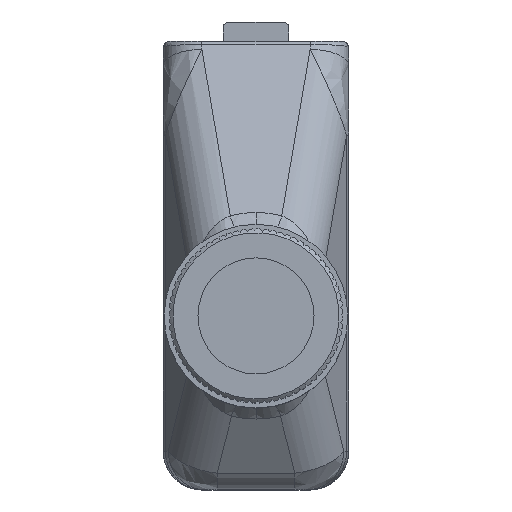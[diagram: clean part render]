
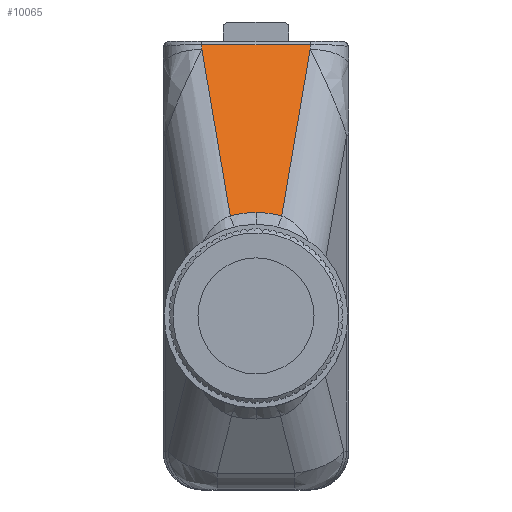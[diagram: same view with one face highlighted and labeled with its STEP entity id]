
A CAD part, top view. The second image highlights one B-rep face of the part: STEP entity #10065.
In plain terms, the highlighted planar face has unit normal (0, 0.433, 0.901).
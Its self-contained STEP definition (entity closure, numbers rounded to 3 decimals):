
#315 = LINE ( 'NONE', #34624, #8316 ) ;
#774 = ORIENTED_EDGE ( 'NONE', *, *, #35070, .T. ) ;
#1414 = CARTESIAN_POINT ( 'NONE',  ( 1.335, 4.307, 21.791 ) ) ;
#1610 = CARTESIAN_POINT ( 'NONE',  ( -4.8, 3.35, 22.25 ) ) ;
#1775 = DIRECTION ( 'NONE',  ( 0.151, 0.891, -0.428 ) ) ;
#2580 = CARTESIAN_POINT ( 'NONE',  ( -1.335, 4.307, 21.791 ) ) ;
#2708 = CARTESIAN_POINT ( 'NONE',  ( 0., 4.485, 21.705 ) ) ;
#2712 = EDGE_CURVE ( 'NONE', #38865, #21482, #315, .T. ) ;
#5089 = EDGE_CURVE ( 'NONE', #21482, #38360, #39043, .T. ) ;
#5125 = ORIENTED_EDGE ( 'NONE', *, *, #7620, .T. ) ;
#5273 = CARTESIAN_POINT ( 'NONE',  ( 1.335, 4.307, 21.791 ) ) ;
#6860 = VERTEX_POINT ( 'NONE', #12864 ) ;
#6944 = VECTOR ( 'NONE', #1775, 1000. ) ;
#7620 = EDGE_CURVE ( 'NONE', #36536, #17988, #21917, .T. ) ;
#8316 = VECTOR ( 'NONE', #11909, 1000. ) ;
#10065 = ADVANCED_FACE ( 'NONE', ( #37333 ), #30899, .T. ) ;
#10970 = ORIENTED_EDGE ( 'NONE', *, *, #17609, .T. ) ;
#11237 = DIRECTION ( 'NONE',  ( 0., -0.902, 0.433 ) ) ;
#11909 = DIRECTION ( 'NONE',  ( 0., -0.902, 0.433 ) ) ;
#12864 = CARTESIAN_POINT ( 'NONE',  ( 0., 4.485, 21.705 ) ) ;
#13062 = DIRECTION ( 'NONE',  ( 0.151, -0.891, 0.428 ) ) ;
#13317 = EDGE_LOOP ( 'NONE', ( #16882, #10970, #26770, #17451, #18467, #774, #5125 ) ) ;
#14346 = CARTESIAN_POINT ( 'NONE',  ( -2.8, 13.18, 17.532 ) ) ;
#14839 = EDGE_CURVE ( 'NONE', #38360, #6860, #22938, .T. ) ;
#16882 = ORIENTED_EDGE ( 'NONE', *, *, #38892, .T. ) ;
#17451 = ORIENTED_EDGE ( 'NONE', *, *, #5089, .T. ) ;
#17609 = EDGE_CURVE ( 'NONE', #27018, #38865, #21443, .T. ) ;
#17816 = VECTOR ( 'NONE', #28803, 1000. ) ;
#17914 = DIRECTION ( 'NONE',  ( 0., 0.433, 0.902 ) ) ;
#17988 = VERTEX_POINT ( 'NONE', #31378 ) ;
#17993 = CARTESIAN_POINT ( 'NONE',  ( -1.335, 4.307, 21.791 ) ) ;
#18230 = AXIS2_PLACEMENT_3D ( 'NONE', #1610, #17914, #11237 ) ;
#18450 = VECTOR ( 'NONE', #35712, 1000. ) ;
#18467 = ORIENTED_EDGE ( 'NONE', *, *, #14839, .T. ) ;
#21443 = LINE ( 'NONE', #22633, #18450 ) ;
#21482 = VERTEX_POINT ( 'NONE', #35009 ) ;
#21807 = CARTESIAN_POINT ( 'NONE',  ( -0.899, 4.425, 21.734 ) ) ;
#21917 = LINE ( 'NONE', #33439, #6944 ) ;
#22633 = CARTESIAN_POINT ( 'NONE',  ( -4.8, 13.18, 17.532 ) ) ;
#22938 =( BOUNDED_CURVE ( )  B_SPLINE_CURVE ( 3, ( #2580, #21807, #40537, #2708 ),
 .UNSPECIFIED., .F., .F. ) 
 B_SPLINE_CURVE_WITH_KNOTS ( ( 4, 4 ),
 ( 2.877, 3.142 ),
 .UNSPECIFIED. ) 
 CURVE ( )  GEOMETRIC_REPRESENTATION_ITEM ( )  RATIONAL_B_SPLINE_CURVE ( ( 1., 0.994, 0.994, 1. ) ) 
 REPRESENTATION_ITEM ( '' )  );
#23739 =( BOUNDED_CURVE ( )  B_SPLINE_CURVE ( 3, ( #40718, #30946, #40856, #5273 ),
 .UNSPECIFIED., .F., .F. ) 
 B_SPLINE_CURVE_WITH_KNOTS ( ( 4, 4 ),
 ( 0., 0.265 ),
 .UNSPECIFIED. ) 
 CURVE ( )  GEOMETRIC_REPRESENTATION_ITEM ( )  RATIONAL_B_SPLINE_CURVE ( ( 1., 0.994, 0.994, 1. ) ) 
 REPRESENTATION_ITEM ( '' )  );
#24172 = CARTESIAN_POINT ( 'NONE',  ( 2.8, 13.18, 17.532 ) ) ;
#25614 = VECTOR ( 'NONE', #13062, 1000. ) ;
#26770 = ORIENTED_EDGE ( 'NONE', *, *, #2712, .T. ) ;
#27018 = VERTEX_POINT ( 'NONE', #24172 ) ;
#28803 = DIRECTION ( 'NONE',  ( 0., 0.902, -0.433 ) ) ;
#30899 = PLANE ( 'NONE',  #18230 ) ;
#30946 = CARTESIAN_POINT ( 'NONE',  ( 0.451, 4.485, 21.705 ) ) ;
#31378 = CARTESIAN_POINT ( 'NONE',  ( 2.8, 12.927, 17.653 ) ) ;
#31911 = CARTESIAN_POINT ( 'NONE',  ( 2.8, 13.684, 17.289 ) ) ;
#33439 = CARTESIAN_POINT ( 'NONE',  ( 2.916, 13.61, 17.325 ) ) ;
#34624 = CARTESIAN_POINT ( 'NONE',  ( -2.8, 3.35, 22.25 ) ) ;
#34790 = LINE ( 'NONE', #31911, #17816 ) ;
#35009 = CARTESIAN_POINT ( 'NONE',  ( -2.8, 12.927, 17.653 ) ) ;
#35070 = EDGE_CURVE ( 'NONE', #6860, #36536, #23739, .T. ) ;
#35712 = DIRECTION ( 'NONE',  ( -1., 0., 0. ) ) ;
#36536 = VERTEX_POINT ( 'NONE', #1414 ) ;
#37333 = FACE_OUTER_BOUND ( 'NONE', #13317, .T. ) ;
#38360 = VERTEX_POINT ( 'NONE', #17993 ) ;
#38545 = CARTESIAN_POINT ( 'NONE',  ( -0.916, 1.842, 22.974 ) ) ;
#38865 = VERTEX_POINT ( 'NONE', #14346 ) ;
#38892 = EDGE_CURVE ( 'NONE', #17988, #27018, #34790, .T. ) ;
#39043 = LINE ( 'NONE', #38545, #25614 ) ;
#40537 = CARTESIAN_POINT ( 'NONE',  ( -0.451, 4.485, 21.705 ) ) ;
#40718 = CARTESIAN_POINT ( 'NONE',  ( 0., 4.485, 21.705 ) ) ;
#40856 = CARTESIAN_POINT ( 'NONE',  ( 0.899, 4.425, 21.734 ) ) ;
